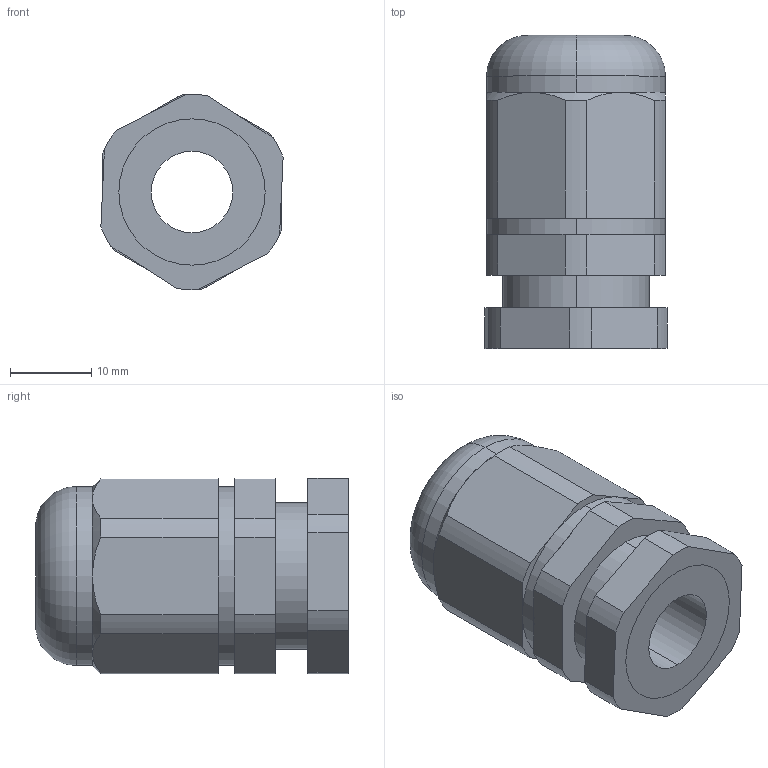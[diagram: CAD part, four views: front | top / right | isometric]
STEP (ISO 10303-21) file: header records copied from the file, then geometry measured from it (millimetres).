
FILE_DESCRIPTION (( 'STEP AP214' ), '1' );
FILE_NAME ('Ñàëüíèê PG11-(Dïðîâîäíèêà 7-9ìì)-IP54.STEP', '2023-02-20T06:43:18', ( '' ), ( '' ), 'SwSTEP 2.0', 'SolidWorks 2018', '' );
FILE_SCHEMA (( 'AUTOMOTIVE_DESIGN' ));
Length unit declared in the file: millimetre
Products named in the file (3): Ñàëüíèê PG11-(Dïðîâîäíèêà 7-9ìì)-IP54; Ñàëüíèê PG11-(Dïðîâîäíèêà 7-9ìì)-IP54 ãàéêà; Ñàëüíèê PG11-(Dïðîâîäíèêà 7-9ìì)-IP54 äåòàëü
Assembly tree (2 placements, depth 2):
  Ñàëüíèê PG11-(Dïðîâîäíèêà 7-9ìì)-IP54
    Ñàëüíèê PG11-(Dïðîâîäíèêà 7-9ìì)-IP54 äåòàëü
    Ñàëüíèê PG11-(Dïðîâîäíèêà 7-9ìì)-IP54 ãàéêà
Bounding box: 22.42 x 38.5 x 24 mm (x, y, z)
Volume: 11618 mm3; surface area: 5378.3 mm2
Topology: 2 solids, 2 shells, 75 faces, 188 edges, 118 vertices
Faces by surface type: plane 35, cylinder 31, cone 7, torus 2
Entity records: 2432 total; most frequent: CARTESIAN_POINT 474, DIRECTION 420, ORIENTED_EDGE 376, EDGE_CURVE 188, AXIS2_PLACEMENT_3D 164, VERTEX_POINT 118, VECTOR 92, LINE 92
